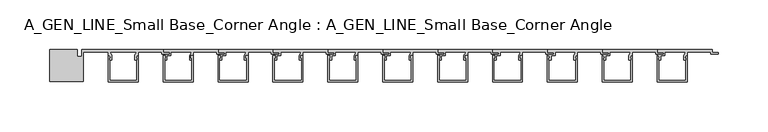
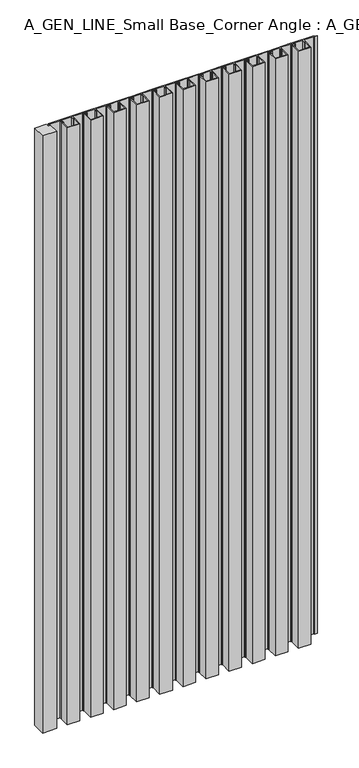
"""IFC4 building model written with IfcOpenShell, lengths in millimetres: proxy geometry, A_GEN_LINE_Small Base_Corner Angle : A_GEN_LINE_Small Base_Corner Angle."""

import ifcopenshell
import ifcopenshell.guid

model = None  # the IFC model being written
_history = None  # IfcOwnerHistory: only IFC2X3 demands one
_inside = {}  # id of a spatial element -> (the spatial element, [elements in it])
_under = {}  # id of a project, library or spatial element -> (it, [spatial elements below it])
_declared = {}  # id of a project -> (the project, [libraries it declares])
_typed = {}  # id of a type object -> (the type object, [elements of that type])
_made_of = {}  # id of a material, layer set ... -> (it, [elements and type objects made of it])


def new_model(schema):
    """Start an empty IFC model of exactly this schema.

    Asked for "IFC4X3", IfcOpenShell would pick the latest addendum, in which some entities
    have other attributes; the version numbers below select the first issue.
    IFC2X3 requires an IfcOwnerHistory on every rooted entity: one is made here for all.
    """
    global model, _history
    if schema == "IFC4X3":
        model = ifcopenshell.file(schema_version=(4, 3, 0, 0))
    else:
        model = ifcopenshell.file(schema=schema)
    _inside.clear()
    _under.clear()
    _declared.clear()
    _typed.clear()
    _made_of.clear()
    _history = None
    if model.schema == "IFC2X3":
        org = make("IfcOrganization", Name="unknown")
        user = make(
            "IfcPersonAndOrganization",
            ThePerson=make("IfcPerson", FamilyName="unknown"),
            TheOrganization=org,
        )
        app = make(
            "IfcApplication",
            ApplicationDeveloper=org,
            Version="unknown",
            ApplicationFullName="unknown",
            ApplicationIdentifier="unknown",
        )
        _history = make(
            "IfcOwnerHistory",
            OwningUser=user,
            OwningApplication=app,
            ChangeAction="ADDED",
            CreationDate=0,
        )
    return model


def make(cls, **values):
    """One entity of the class cls with the attributes given. An attribute that is None is left unset."""
    return model.create_entity(
        cls, **{name: value for name, value in values.items() if value is not None}
    )


def rooted(cls, **values):
    """An entity with a GlobalId (a new one), such as an element, a storey or a relation."""
    return make(cls, GlobalId=ifcopenshell.guid.new(), OwnerHistory=_history, **values)


def si_unit(unit_type, name, prefix=None):
    """IfcSIUnit, for example si_unit("LENGTHUNIT", "METRE", prefix="MILLI")."""
    return make("IfcSIUnit", UnitType=unit_type, Prefix=prefix, Name=name)


def assignment(units):
    """IfcUnitAssignment: the units of a project."""
    return None if units is None else make("IfcUnitAssignment", Units=units)


def point(xyz):
    """IfcCartesianPoint."""
    return None if xyz is None else make("IfcCartesianPoint", Coordinates=xyz)


def direction(xyz):
    """IfcDirection."""
    return None if xyz is None else make("IfcDirection", DirectionRatios=xyz)


def frame(location, z_axis=None, x_axis=None):
    """IfcAxis2Placement3D, a coordinate frame: its origin and axes. An axis left out is left unset."""
    return make(
        "IfcAxis2Placement3D",
        Location=point(location),
        Axis=direction(z_axis),
        RefDirection=direction(x_axis),
    )


def origin():
    """The frame at (0, 0, 0) with its axes left unset."""
    return frame((0.0, 0.0, 0.0))


def origin_with_axes():
    """The frame at (0, 0, 0) with the z axis (0, 0, 1) and the x axis (1, 0, 0) written out."""
    return frame((0.0, 0.0, 0.0), z_axis=(0.0, 0.0, 1.0), x_axis=(1.0, 0.0, 0.0))


def place(relative_to, where):
    """IfcLocalPlacement: puts the frame where relative to a parent placement (None: the world)."""
    return make(
        "IfcLocalPlacement", PlacementRelTo=relative_to, RelativePlacement=where
    )


def context(
    kind, dimensions, precision=None, world=None, true_north=None, identifier=None
):
    """IfcGeometricRepresentationContext, for example the 3D "Model" context."""
    return make(
        "IfcGeometricRepresentationContext",
        ContextIdentifier=identifier,
        ContextType=kind,
        CoordinateSpaceDimension=dimensions,
        Precision=precision,
        WorldCoordinateSystem=world,
        TrueNorth=true_north,
    )


def project(units=None, contexts=None):
    """IfcProject with its units and contexts."""
    return rooted(
        "IfcProject",
        Name="project",
        RepresentationContexts=contexts,
        UnitsInContext=assignment(units),
    )


def spatial(cls, under=None, at=None, **own):
    """A site, building, storey or space (cls), placed at a placement, below another one or the project."""
    s = rooted(cls, ObjectPlacement=at, **own)
    if under is not None:
        _under.setdefault(under.id(), (under, []))[1].append(s)
    return s


def polyline(points):
    """IfcPolyline through the points."""
    return make("IfcPolyline", Points=[point(p) for p in points])


def outline(outer, holes=None, kind="AREA"):
    """IfcArbitraryClosedProfileDef: a profile drawn as a closed curve; with holes, ...WithVoids."""
    if holes is None:
        return make("IfcArbitraryClosedProfileDef", ProfileType=kind, OuterCurve=outer)
    return make(
        "IfcArbitraryProfileDefWithVoids",
        ProfileType=kind,
        OuterCurve=outer,
        InnerCurves=holes,
    )


def extrude(swept, where, along, depth):
    """IfcExtrudedAreaSolid: the profile swept, set in the frame where, extruded along a direction by depth."""
    return make(
        "IfcExtrudedAreaSolid",
        SweptArea=swept,
        Position=where,
        ExtrudedDirection=direction(along),
        Depth=depth,
    )


def shape(context_of_items, identifier, shape_type, items):
    """IfcShapeRepresentation: the items that make up one representation, for example the "Body"."""
    return make(
        "IfcShapeRepresentation",
        ContextOfItems=context_of_items,
        RepresentationIdentifier=identifier,
        RepresentationType=shape_type,
        Items=items,
    )


def source(mapping_origin, context_of_items, identifier, shape_type, items):
    """IfcRepresentationMap: a shape defined once, which mapped items show again and again."""
    return make(
        "IfcRepresentationMap",
        MappingOrigin=mapping_origin,
        MappedRepresentation=shape(context_of_items, identifier, shape_type, items),
    )


def transform(
    local_origin,
    x_axis=None,
    y_axis=None,
    z_axis=None,
    scale=None,
    scale2=None,
    scale3=None,
    uniform=True,
):
    """IfcCartesianTransformationOperator3D, or its non-uniform kind. x_axis, y_axis, z_axis: its Axis1, 2, 3."""
    if uniform:
        return make(
            "IfcCartesianTransformationOperator3D",
            Axis1=direction(x_axis),
            Axis2=direction(y_axis),
            LocalOrigin=point(local_origin),
            Scale=scale,
            Axis3=direction(z_axis),
        )
    return make(
        "IfcCartesianTransformationOperator3DnonUniform",
        Axis1=direction(x_axis),
        Axis2=direction(y_axis),
        LocalOrigin=point(local_origin),
        Scale=scale,
        Axis3=direction(z_axis),
        Scale2=scale2,
        Scale3=scale3,
    )


def mapped(mapping_source, mapping_target):
    """IfcMappedItem: shows the shape of a source again, moved by a transform."""
    return make(
        "IfcMappedItem", MappingSource=mapping_source, MappingTarget=mapping_target
    )


def made_of(thing, what):
    """Note that an element or type object is made of a material, layer set ...; save() writes the relation."""
    if what is not None:
        _made_of.setdefault(what.id(), (what, []))[1].append(thing)
    return thing


def element(
    cls,
    number,
    at=None,
    inside=None,
    cuts=None,
    type_object=None,
    material=None,
    context=None,
    identifier="Body",
    shape_type=None,
    held_by="IfcProductDefinitionShape",
    body=None,
    shapes=None,
    **own,
):
    """One element of the class cls, such as IfcWall. Its Tag is "e" and its number.

    at: its placement. inside: the storey or other place that contains it. cuts: it is an
    opening in that element (IfcRelVoidsElement). A single representation is given by context,
    identifier, shape_type and body (its items); several are given by shapes. held_by: the class
    of the entity that holds the representations. save() writes the other relations.
    """
    e = rooted(cls, Tag="e%d" % number, ObjectPlacement=at, **own)
    if body is not None:
        shapes = [shape(context, identifier, shape_type, body)]
    if shapes is not None:
        e.Representation = make(held_by, Representations=shapes)
    if inside is not None:
        _inside.setdefault(inside.id(), (inside, []))[1].append(e)
    if cuts is not None:
        rooted(
            "IfcRelVoidsElement", RelatingBuildingElement=cuts, RelatedOpeningElement=e
        )
    if type_object is not None:
        _typed.setdefault(type_object.id(), (type_object, []))[1].append(e)
    return made_of(e, material)


def aggregate(whole, parts):
    """IfcRelAggregates: a whole, such as a stair, and the parts it consists of."""
    return rooted("IfcRelAggregates", RelatingObject=whole, RelatedObjects=parts)


def save(model, path):
    """Write the relations noted so far, then the file.

    IfcRelAggregates (storeys below a building ...), IfcRelContainedInSpatialStructure (elements
    in a storey), IfcRelDefinesByType, IfcRelAssociatesMaterial and IfcRelDeclares: one each for
    every whole, place, type object, material and project.
    """
    for whole, parts in _under.values():
        aggregate(whole, parts)
    for where, things in _inside.values():
        rooted(
            "IfcRelContainedInSpatialStructure",
            RelatedElements=things,
            RelatingStructure=where,
        )
    for kind, things in _typed.values():
        rooted("IfcRelDefinesByType", RelatedObjects=things, RelatingType=kind)
    for what, things in _made_of.values():
        rooted("IfcRelAssociatesMaterial", RelatedObjects=things, RelatingMaterial=what)
    for by, libraries in _declared.values():
        rooted("IfcRelDeclares", RelatingContext=by, RelatedDefinitions=libraries)
    model.write(path)


def a_gen_line_small_base_corner_angle_a_gen_line_small_base_130ce5b7(model_context):
    return source(origin(), model_context, "Body", "SweptSolid", [
        extrude(outline(polyline([(577.0964399, 0.0), (631.6693343, 0.0), (631.6693343, -2.85), (637.6693343, -2.85), (637.6693343, -4.2), (630.1509793, -4.2), (630.1509793, -2.4), (606.6814118, -2.4), (606.6814118, -6.1021884), (605.5664384, -6.1021884), (603.9778726, -8.4994005), (605.2398065, -8.4994005), (605.2398065, -10.4818695), (603.0372804, -10.4818695), (603.0372804, -5.6343123), (605.1364015, -2.4), (584.3159926, -2.4), (584.3159926, -6.1), (580.3255432, -6.1), (580.3255432, -10.4818695), (578.1230171, -10.4818695), (578.1230171, -8.4994005), (579.384951, -8.4994005), (577.7963852, -6.1021884), (576.7101997, -6.1021884), (576.7101997, -4.9), (583.1159926, -4.9), (583.1159926, -2.7), (577.0964399, -2.7), (577.0964399, 0.0)])), origin_with_axes(), (0.0, 0.0, 1.0), 1500.0),
        extrude(outline(polyline([(522.0964399, 0.0), (576.6693343, 0.0), (576.6693343, -2.85), (582.6693343, -2.85), (582.6693343, -4.2), (575.1509793, -4.2), (575.1509793, -2.4), (551.6814118, -2.4), (551.6814118, -6.1021884), (550.5664384, -6.1021884), (548.9778726, -8.4994005), (550.2398065, -8.4994005), (550.2398065, -10.4818695), (548.0372804, -10.4818695), (548.0372804, -5.6343123), (550.1364015, -2.4), (529.3159926, -2.4), (529.3159926, -6.1), (525.3255432, -6.1), (525.3255432, -10.4818695), (523.1230171, -10.4818695), (523.1230171, -8.4994005), (524.384951, -8.4994005), (522.7963852, -6.1021884), (521.7101997, -6.1021884), (521.7101997, -4.9), (528.1159926, -4.9), (528.1159926, -2.7), (522.0964399, -2.7), (522.0964399, 0.0)])), origin_with_axes(), (0.0, 0.0, 1.0), 1500.0),
        extrude(outline(polyline([(467.0964399, 0.0), (521.6693343, 0.0), (521.6693343, -2.85), (527.6693343, -2.85), (527.6693343, -4.2), (520.1509793, -4.2), (520.1509793, -2.4), (496.6814118, -2.4), (496.6814118, -6.1021884), (495.5664384, -6.1021884), (493.9778726, -8.4994005), (495.2398065, -8.4994005), (495.2398065, -10.4818695), (493.0372804, -10.4818695), (493.0372804, -5.6343123), (495.1364015, -2.4), (474.3159926, -2.4), (474.3159926, -6.1), (470.3255432, -6.1), (470.3255432, -10.4818695), (468.1230171, -10.4818695), (468.1230171, -8.4994005), (469.384951, -8.4994005), (467.7963852, -6.1021884), (466.7101997, -6.1021884), (466.7101997, -4.9), (473.1159926, -4.9), (473.1159926, -2.7), (467.0964399, -2.7), (467.0964399, 0.0)])), origin_with_axes(), (0.0, 0.0, 1.0), 1500.0),
        extrude(outline(polyline([(-4.3962835, 0.0), (-4.3962835, -7.0005407), (0.0, -7.0005407), (0.0, 0.0), (81.7101997, 0.0), (81.7101997, -2.825696), (87.7101997, -2.825696), (87.7101997, -4.175696), (80.1918447, -4.175696), (80.1918447, -2.4), (56.6880373, -2.4), (56.6880373, -6.1021884), (55.5730639, -6.1021884), (53.9844981, -8.4994005), (55.246432, -8.4994005), (55.246432, -10.4818695), (53.0439059, -10.4818695), (53.0771891, -5.5238337), (55.1472669, -2.4), (28.2330476, -2.4), (30.3031254, -5.5238337), (30.3364086, -10.4818695), (28.1338825, -10.4818695), (28.1338825, -8.4994005), (29.3958164, -8.4994005), (27.8072506, -6.1021884), (26.6922772, -6.1021884), (26.6922772, -2.4), (1.4, -2.4), (1.4, -31.9534606), (-31.8427435, -31.9534606), (-31.8427435, 0.0), (-4.3962835, 0.0)])), origin_with_axes(), (0.0, 0.0, 1.0), 1500.0),
        extrude(outline(polyline([(576.6027027, -32.2007192), (576.6027027, -6.1), (578.7517097, -6.1), (578.7517097, -8.3419727), (578.0027027, -8.5826662), (578.0027027, -30.8007192), (605.2027027, -30.8007192), (605.2027027, -8.5826662), (604.4536957, -8.3419727), (604.4536957, -6.1), (606.6027027, -6.1), (606.6027027, -32.2007192), (576.6027027, -32.2007192)])), origin_with_axes(), (0.0, 0.0, 1.0), 1500.0),
        extrude(outline(polyline([(521.6114482, -32.2007192), (521.6114482, -6.1), (523.7604551, -6.1), (523.7604551, -8.3419727), (523.0114482, -8.5826662), (523.0114482, -30.8007192), (550.2114482, -30.8007192), (550.2114482, -8.5826662), (549.4624412, -8.3419727), (549.4624412, -6.1), (551.6114482, -6.1), (551.6114482, -32.2007192), (521.6114482, -32.2007192)])), origin_with_axes(), (0.0, 0.0, 1.0), 1500.0),
        extrude(outline(polyline([(466.6201936, -32.2007192), (466.6201936, -6.1), (468.7692006, -6.1), (468.7692006, -8.3419727), (468.0201936, -8.5826662), (468.0201936, -30.8007192), (495.2201936, -30.8007192), (495.2201936, -8.5826662), (494.4711866, -8.3419727), (494.4711866, -6.1), (496.6201936, -6.1), (496.6201936, -32.2007192), (466.6201936, -32.2007192)])), origin_with_axes(), (0.0, 0.0, 1.0), 1500.0),
        extrude(outline(polyline([(411.6289391, -32.2007192), (411.6289391, -6.1), (413.777946, -6.1), (413.777946, -8.3419727), (413.0289391, -8.5826662), (413.0289391, -30.8007192), (440.2289391, -30.8007192), (440.2289391, -8.5826662), (439.4799321, -8.3419727), (439.4799321, -6.1), (441.6289391, -6.1), (441.6289391, -32.2007192), (411.6289391, -32.2007192)])), origin_with_axes(), (0.0, 0.0, 1.0), 1500.0),
        extrude(outline(polyline([(356.6376845, -32.2007192), (356.6376845, -6.1), (358.7866915, -6.1), (358.7866915, -8.3419727), (358.0376845, -8.5826662), (358.0376845, -30.8007192), (385.2376845, -30.8007192), (385.2376845, -8.5826662), (384.4886776, -8.3419727), (384.4886776, -6.1), (386.6376845, -6.1), (386.6376845, -32.2007192), (356.6376845, -32.2007192)])), origin_with_axes(), (0.0, 0.0, 1.0), 1500.0),
        extrude(outline(polyline([(301.64643, -32.2007192), (301.64643, -6.1), (303.7954369, -6.1), (303.7954369, -8.3419727), (303.04643, -8.5826662), (303.04643, -30.8007192), (330.24643, -30.8007192), (330.24643, -8.5826662), (329.497423, -8.3419727), (329.497423, -6.1), (331.64643, -6.1), (331.64643, -32.2007192), (301.64643, -32.2007192)])), origin_with_axes(), (0.0, 0.0, 1.0), 1500.0),
        extrude(outline(polyline([(246.6551754, -32.2007192), (246.6551754, -6.1), (248.8041824, -6.1), (248.8041824, -8.3419727), (248.0551754, -8.5826662), (248.0551754, -30.8007192), (275.2551754, -30.8007192), (275.2551754, -8.5826662), (274.5061685, -8.3419727), (274.5061685, -6.1), (276.6551754, -6.1), (276.6551754, -32.2007192), (246.6551754, -32.2007192)])), origin_with_axes(), (0.0, 0.0, 1.0), 1500.0),
        extrude(outline(polyline([(191.6639209, -32.2007192), (191.6639209, -6.1), (193.8129278, -6.1), (193.8129278, -8.3419727), (193.0639209, -8.5826662), (193.0639209, -30.8007192), (220.2639209, -30.8007192), (220.2639209, -8.5826662), (219.5149139, -8.3419727), (219.5149139, -6.1), (221.6639209, -6.1), (221.6639209, -32.2007192), (191.6639209, -32.2007192)])), origin_with_axes(), (0.0, 0.0, 1.0), 1500.0),
        extrude(outline(polyline([(136.6726663, -32.2007192), (136.6726663, -6.1), (138.8216733, -6.1), (138.8216733, -8.3419727), (138.0726663, -8.5826662), (138.0726663, -30.8007192), (165.2726663, -30.8007192), (165.2726663, -8.5826662), (164.5236594, -8.3419727), (164.5236594, -6.1), (166.6726663, -6.1), (166.6726663, -32.2007192), (136.6726663, -32.2007192)])), origin_with_axes(), (0.0, 0.0, 1.0), 1500.0),
        extrude(outline(polyline([(81.6814118, -32.2007192), (81.6814118, -6.1), (83.8304188, -6.1), (83.8304188, -8.3419727), (83.0814118, -8.5826662), (83.0814118, -30.8007192), (110.2814118, -30.8007192), (110.2814118, -8.5826662), (109.5324048, -8.3419727), (109.5324048, -6.1), (111.6814118, -6.1), (111.6814118, -32.2007192), (81.6814118, -32.2007192)])), origin_with_axes(), (0.0, 0.0, 1.0), 1500.0),
        extrude(outline(polyline([(26.6901573, -32.2007192), (26.6901573, -6.1), (28.8391642, -6.1), (28.8391642, -8.3419727), (28.0901573, -8.5826662), (28.0901573, -30.8007192), (55.2901573, -30.8007192), (55.2901573, -8.5826662), (54.5411503, -8.3419727), (54.5411503, -6.1), (56.6901573, -6.1), (56.6901573, -32.2007192), (26.6901573, -32.2007192)])), origin_with_axes(), (0.0, 0.0, 1.0), 1500.0),
        extrude(outline(polyline([(412.0964399, 0.0), (466.6693343, 0.0), (466.6693343, -2.85), (472.6693343, -2.85), (472.6693343, -4.2), (465.1509793, -4.2), (465.1509793, -2.4), (441.6814118, -2.4), (441.6814118, -6.1021884), (440.5664384, -6.1021884), (438.9778726, -8.4994005), (440.2398065, -8.4994005), (440.2398065, -10.4818695), (438.0372804, -10.4818695), (438.0372804, -5.6343123), (440.1364015, -2.4), (419.3159926, -2.4), (419.3159926, -6.1), (415.3255432, -6.1), (415.3255432, -10.4818695), (413.1230171, -10.4818695), (413.1230171, -8.4994005), (414.384951, -8.4994005), (412.7963852, -6.1021884), (411.7101997, -6.1021884), (411.7101997, -4.9), (418.1159926, -4.9), (418.1159926, -2.7), (412.0964399, -2.7), (412.0964399, 0.0)])), origin_with_axes(), (0.0, 0.0, 1.0), 1500.0),
        extrude(outline(polyline([(357.0964399, 0.0), (411.6693343, 0.0), (411.6693343, -2.85), (417.6693343, -2.85), (417.6693343, -4.2), (410.1509793, -4.2), (410.1509793, -2.4), (386.6814118, -2.4), (386.6814118, -6.1021884), (385.5664384, -6.1021884), (383.9778726, -8.4994005), (385.2398065, -8.4994005), (385.2398065, -10.4818695), (383.0372804, -10.4818695), (383.0372804, -5.6343123), (385.1364015, -2.4), (364.3159926, -2.4), (364.3159926, -6.1), (360.3255432, -6.1), (360.3255432, -10.4818695), (358.1230171, -10.4818695), (358.1230171, -8.4994005), (359.384951, -8.4994005), (357.7963852, -6.1021884), (356.7101997, -6.1021884), (356.7101997, -4.9), (363.1159926, -4.9), (363.1159926, -2.7), (357.0964399, -2.7), (357.0964399, 0.0)])), origin_with_axes(), (0.0, 0.0, 1.0), 1500.0),
        extrude(outline(polyline([(302.0964399, 0.0), (356.6693343, 0.0), (356.6693343, -2.85), (362.6693343, -2.85), (362.6693343, -4.2), (355.1509793, -4.2), (355.1509793, -2.4), (331.6814118, -2.4), (331.6814118, -6.1021884), (330.5664384, -6.1021884), (328.9778726, -8.4994005), (330.2398065, -8.4994005), (330.2398065, -10.4818695), (328.0372804, -10.4818695), (328.0372804, -5.6343123), (330.1364015, -2.4), (309.3159926, -2.4), (309.3159926, -6.1), (305.3255432, -6.1), (305.3255432, -10.4818695), (303.1230171, -10.4818695), (303.1230171, -8.4994005), (304.384951, -8.4994005), (302.7963852, -6.1021884), (301.7101997, -6.1021884), (301.7101997, -4.9), (308.1159926, -4.9), (308.1159926, -2.7), (302.0964399, -2.7), (302.0964399, 0.0)])), origin_with_axes(), (0.0, 0.0, 1.0), 1500.0),
        extrude(outline(polyline([(247.0964399, 0.0), (301.6693343, 0.0), (301.6693343, -2.85), (307.6693343, -2.85), (307.6693343, -4.2), (300.1509793, -4.2), (300.1509793, -2.4), (276.6814118, -2.4), (276.6814118, -6.1021884), (275.5664384, -6.1021884), (273.9778726, -8.4994005), (275.2398065, -8.4994005), (275.2398065, -10.4818695), (273.0372804, -10.4818695), (273.0372804, -5.6343123), (275.1364015, -2.4), (254.3159926, -2.4), (254.3159926, -6.1), (250.3255432, -6.1), (250.3255432, -10.4818695), (248.1230171, -10.4818695), (248.1230171, -8.4994005), (249.384951, -8.4994005), (247.7963852, -6.1021884), (246.7101997, -6.1021884), (246.7101997, -4.9), (253.1159926, -4.9), (253.1159926, -2.7), (247.0964399, -2.7), (247.0964399, 0.0)])), origin_with_axes(), (0.0, 0.0, 1.0), 1500.0),
        extrude(outline(polyline([(192.0964399, 0.0), (246.6693343, 0.0), (246.6693343, -2.85), (252.6693343, -2.85), (252.6693343, -4.2), (245.1509793, -4.2), (245.1509793, -2.4), (221.6814118, -2.4), (221.6814118, -6.1021884), (220.5664384, -6.1021884), (218.9778726, -8.4994005), (220.2398065, -8.4994005), (220.2398065, -10.4818695), (218.0372804, -10.4818695), (218.0372804, -5.6343123), (220.1364015, -2.4), (199.3159926, -2.4), (199.3159926, -6.1), (195.3255432, -6.1), (195.3255432, -10.4818695), (193.1230171, -10.4818695), (193.1230171, -8.4994005), (194.384951, -8.4994005), (192.7963852, -6.1021884), (191.7101997, -6.1021884), (191.7101997, -4.9), (198.1159926, -4.9), (198.1159926, -2.7), (192.0964399, -2.7), (192.0964399, 0.0)])), origin_with_axes(), (0.0, 0.0, 1.0), 1500.0),
        extrude(outline(polyline([(137.0964399, 0.0), (191.6693343, 0.0), (191.6693343, -2.85), (197.6693343, -2.85), (197.6693343, -4.2), (190.1509793, -4.2), (190.1509793, -2.4), (166.6814118, -2.4), (166.6814118, -6.1021884), (165.5664384, -6.1021884), (163.9778726, -8.4994005), (165.2398065, -8.4994005), (165.2398065, -10.4818695), (163.0372804, -10.4818695), (163.0372804, -5.6343123), (165.1364015, -2.4), (144.3159926, -2.4), (144.3159926, -6.1), (140.3255432, -6.1), (140.3255432, -10.4818695), (138.1230171, -10.4818695), (138.1230171, -8.4994005), (139.384951, -8.4994005), (137.7963852, -6.1021884), (136.7101997, -6.1021884), (136.7101997, -4.9), (143.1159926, -4.9), (143.1159926, -2.7), (137.0964399, -2.7), (137.0964399, 0.0)])), origin_with_axes(), (0.0, 0.0, 1.0), 1500.0),
        extrude(outline(polyline([(82.0964399, 0.0), (136.6693343, 0.0), (136.6693343, -2.85), (142.6693343, -2.85), (142.6693343, -4.2), (135.1509793, -4.2), (135.1509793, -2.4), (111.6814118, -2.4), (111.6814118, -6.1021884), (110.5664384, -6.1021884), (108.9778726, -8.4994005), (110.2398065, -8.4994005), (110.2398065, -10.4818695), (108.0372804, -10.4818695), (108.0372804, -5.6343123), (110.1364015, -2.4), (89.3159926, -2.4), (89.3159926, -6.1), (85.3255432, -6.1), (85.3255432, -10.4818695), (83.1230171, -10.4818695), (83.1230171, -8.4994005), (84.384951, -8.4994005), (82.7963852, -6.1021884), (81.7101997, -6.1021884), (81.7101997, -4.9), (88.1159926, -4.9), (88.1159926, -2.7), (82.0964399, -2.7), (82.0964399, 0.0)])), origin_with_axes(), (0.0, 0.0, 1.0), 1500.0),
    ])


if __name__ == "__main__":
    model = new_model("IFC4")
    model_context = context("Model", 3, world=origin())
    ifc_project = project(units=[si_unit("LENGTHUNIT", "METRE", prefix="MILLI")], contexts=[model_context])
    site = spatial("IfcSite", under=ifc_project)
    building = spatial("IfcBuilding", under=site)
    placement = place(None, origin())
    a_gen_line_small_base_corner_angle_a_gen_line_small_base_shape = a_gen_line_small_base_corner_angle_a_gen_line_small_base_130ce5b7(model_context)
    element("IfcBuildingElementProxy", 1, Name="A_GEN_LINE_Small Base_Corner Angle : A_GEN_LINE_Small Base_Corner Angle", ObjectType="A_GEN_LINE_Small Base_Corner Angle : A_GEN_LINE_Small Base_Corner Angle", at=placement, inside=building, context=model_context, shape_type="MappedRepresentation", body=[
        mapped(a_gen_line_small_base_corner_angle_a_gen_line_small_base_shape, transform((0.0, 0.0, 0.0), x_axis=(1.0, 0.0, 0.0), y_axis=(0.0, 1.0, 0.0), z_axis=(0.0, 0.0, 1.0))),
    ])
    save(model, "model.ifc")
